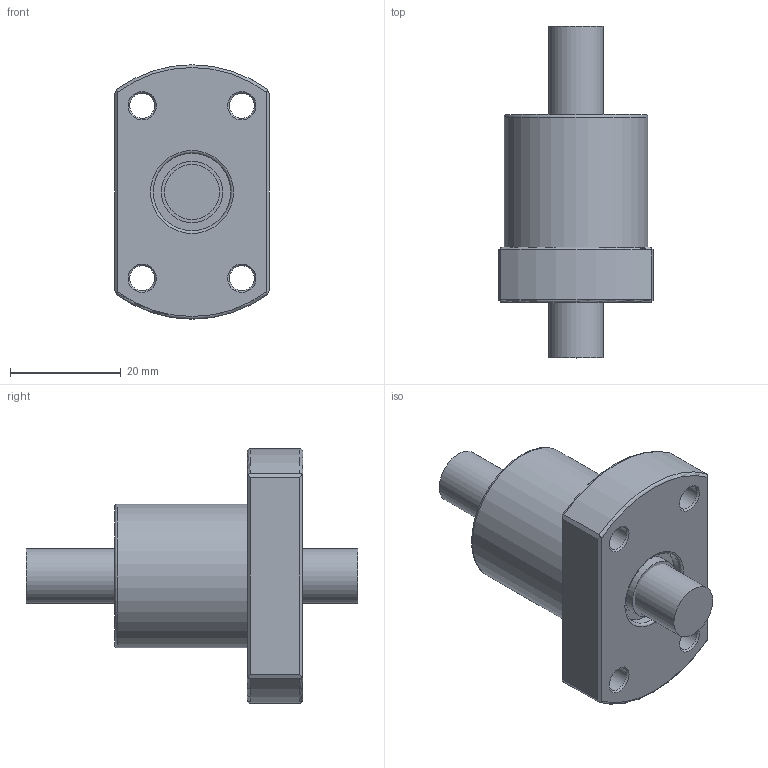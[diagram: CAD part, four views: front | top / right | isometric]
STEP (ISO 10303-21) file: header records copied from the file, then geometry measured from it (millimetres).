
FILE_DESCRIPTION(/* description */ (''),/* implementation_level */ '2;1');
FILE_NAME(/* name */ '1004.prt.step',/* time_stamp */ '2008-12-05T09:38:24+08:00',/* author */ (''),/* organization */ (''),/* preprocessor_version */ 'ST-DEVELOPER v11',/* originating_system */ 'SIEMENS UGS NX 6.0',/* authorisation */ '');
FILE_SCHEMA (('AUTOMOTIVE_DESIGN { 1 0 10303 214 1 1 1 1 }'));
Length unit declared in the file: millimetre
Products named in the file (1): 1004
Bounding box: 28 x 60 x 46 mm (x, y, z)
Volume: 26221.8 mm3; surface area: 9606.8 mm2
Topology: 3 solids, 3 shells, 46 faces, 103 edges, 66 vertices
Faces by surface type: plane 19, cylinder 12, cone 8, torus 7
Full cylindrical faces by diameter (mm): 4.5 x4, 9.95 x1, 11.07 x2, 14 x2, 26 x1
Entity records: 1391 total; most frequent: CARTESIAN_POINT 405, DIRECTION 196, ORIENTED_EDGE 158, AXIS2_PLACEMENT_3D 86, EDGE_LOOP 80, EDGE_CURVE 79, VERTEX_POINT 63, FACE_BOUND 60
